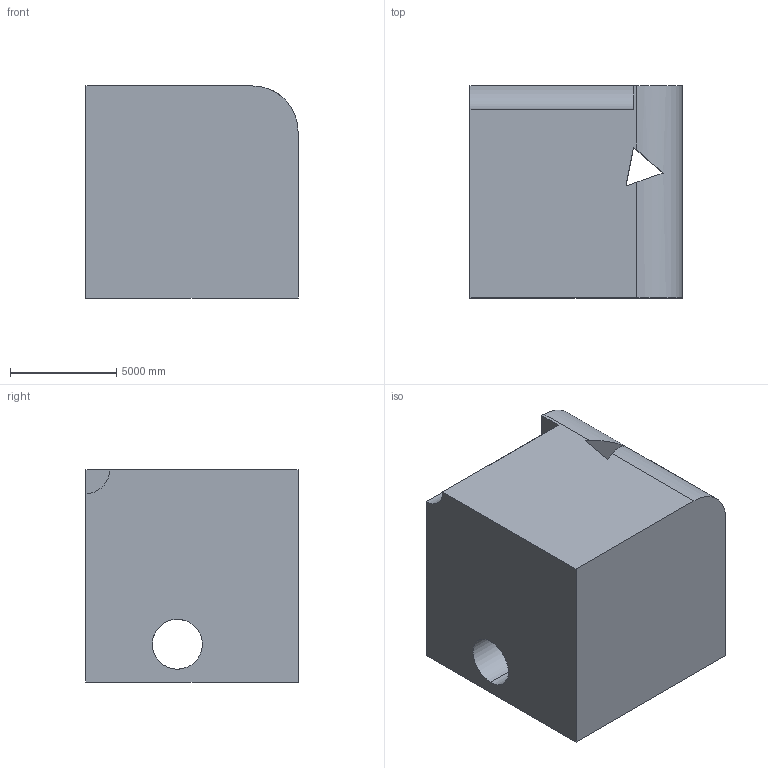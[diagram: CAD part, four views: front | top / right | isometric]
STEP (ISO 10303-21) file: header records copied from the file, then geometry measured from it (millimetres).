
FILE_DESCRIPTION (( 'STEP AP203' ), '1' );
FILE_NAME ('1470.STEP', '2022-08-18T14:40:19', ( 'user' ), ( '' ), 'SwSTEP 2.0', 'SolidWorks 2021', '' );
FILE_SCHEMA (( 'CONFIG_CONTROL_DESIGN' ));
Length unit declared in the file: centimetre
Products named in the file (1): 1470
Bounding box: 10000 x 10000 x 10000 mm (x, y, z)
Volume: 905877355659.5 mm3; surface area: 725457729.6 mm2
Topology: 1 solids, 1 shells, 22 faces, 66 edges, 44 vertices
Faces by surface type: plane 13, cylinder 9
Entity records: 839 total; most frequent: CARTESIAN_POINT 169, ORIENTED_EDGE 132, DIRECTION 116, EDGE_CURVE 66, VERTEX_POINT 44, AXIS2_PLACEMENT_3D 39, LINE 38, VECTOR 38
